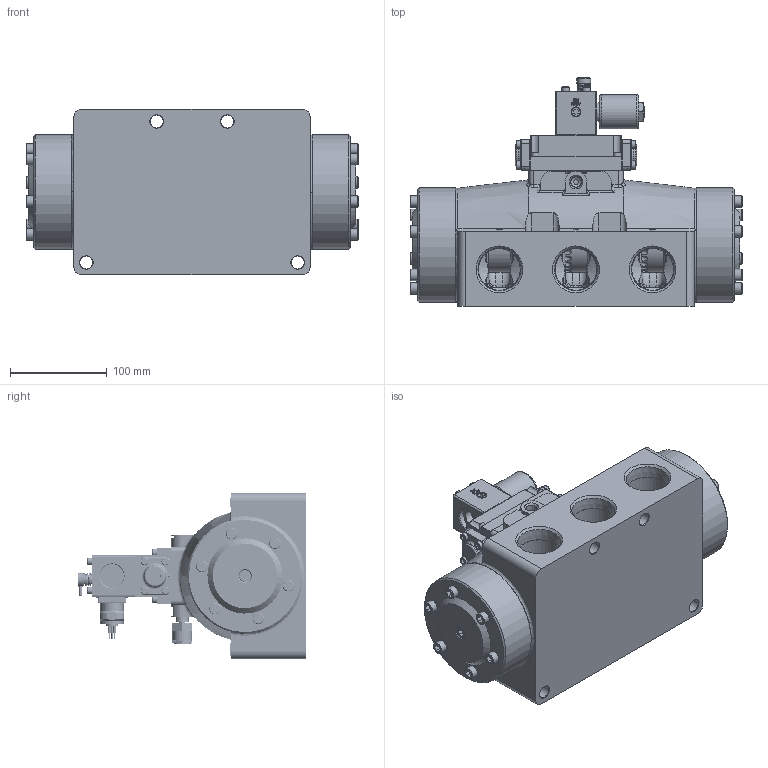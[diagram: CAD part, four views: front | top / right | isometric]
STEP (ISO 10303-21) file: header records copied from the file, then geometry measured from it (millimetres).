
FILE_DESCRIPTION(/* description */ (''),/* implementation_level */ '2;1');
FILE_NAME(/* name */ 'D:\Website New\Valves\Classic\SO\stp\SO12MONZ.stp',/* time_stamp */ '2020-01-18T09:24:02-05:00',/* author */ ('RMcKenna'),/* organization */ (''),/* preprocessor_version */ 'ST-DEVELOPER v17',/* originating_system */ 'Autodesk Inventor 2018',/* authorisation */ '');
FILE_SCHEMA (('AUTOMOTIVE_DESIGN { 1 0 10303 214 3 1 1 }'));
Products named in the file (1): Part11
Bounding box: 343.84 x 236.84 x 171.45 mm (x, y, z)
Volume: 4544342.4 mm3; surface area: 581579 mm2
Topology: 3 solids, 70 shells, 3044 faces, 7642 edges, 4986 vertices
Faces by surface type: plane 1332, cylinder 601, cone 547, bspline 281, torus 273, sphere 10
Full cylindrical faces by diameter (mm): 1.041 x1, 1.321 x1, 1.346 x3, 1.397 x1, 2.07 x2, 2.261 x2, 2.35 x1, 2.718 x1, 2.769 x1, 2.778 x2, 3.048 x3, 3.175 x14, 3.302 x2, 3.683 x16, 3.912 x1, 3.962 x1, 4.366 x10, 4.369 x3, 4.762 x2, 4.763 x5, 4.826 x20, 5.156 x8, 5.159 x9, 5.537 x5, 5.639 x1, 5.944 x2, 6.35 x1, 6.401 x12, 6.629 x2, 6.731 x2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
Entity records: 109383 total; most frequent: CARTESIAN_POINT 34849, ORIENTED_EDGE 15146, DIRECTION 14450, EDGE_CURVE 7573, AXIS2_PLACEMENT_3D 5507, VERTEX_POINT 4985, EDGE_LOOP 3474, LINE 3436
